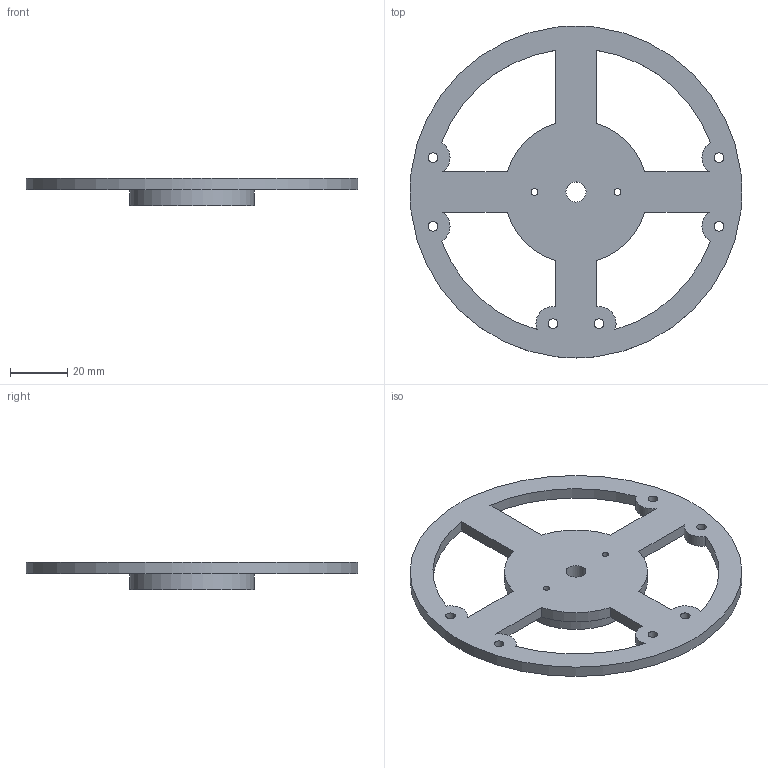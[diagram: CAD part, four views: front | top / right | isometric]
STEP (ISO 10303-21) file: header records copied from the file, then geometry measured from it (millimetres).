
FILE_DESCRIPTION(('FreeCAD Model'),'2;1');
FILE_NAME('Open CASCADE Shape Model','2026-11-07T16:11:58',('FreeCAD'),( 'FreeCAD'),'Open CASCADE STEP processor 7.8','FreeCAD','Unknown');
FILE_SCHEMA(('AUTOMOTIVE_DESIGN { 1 0 10303 214 1 1 1 1 }'));
Length unit declared in the file: millimetre
Products named in the file (1): Open CASCADE STEP translator 7.8 4
Bounding box: 116 x 116 x 9.5 mm (x, y, z)
Volume: 30305.1 mm3; surface area: 17692.8 mm2
Topology: 1 solids, 1 shells, 38 faces, 130 edges, 96 vertices
Faces by surface type: cylinder 26, plane 12
Full cylindrical faces by diameter (mm): 2.3 x2, 3.4 x6, 7 x1, 37 x1, 43.5 x1, 116 x1
Entity records: 1559 total; most frequent: DIRECTION 287, CARTESIAN_POINT 266, ORIENTED_EDGE 260, EDGE_CURVE 130, AXIS2_PLACEMENT_3D 119, VERTEX_POINT 96, CIRCLE 80, FACE_BOUND 66
